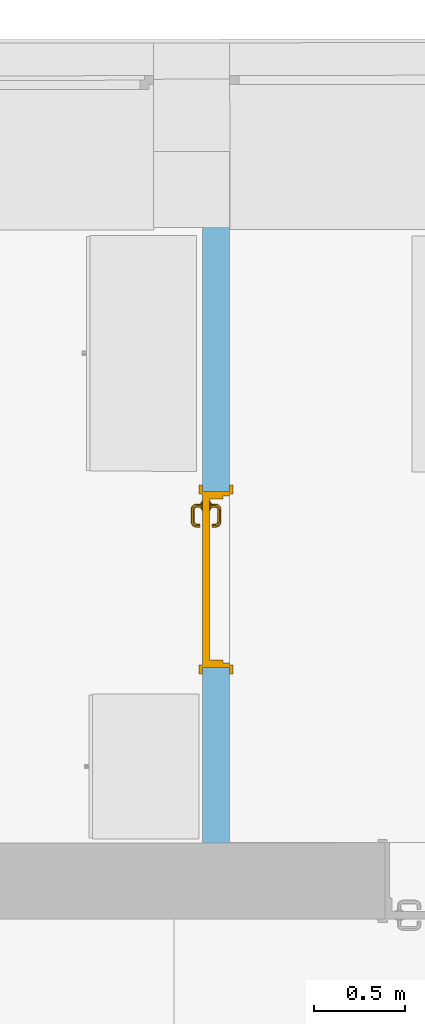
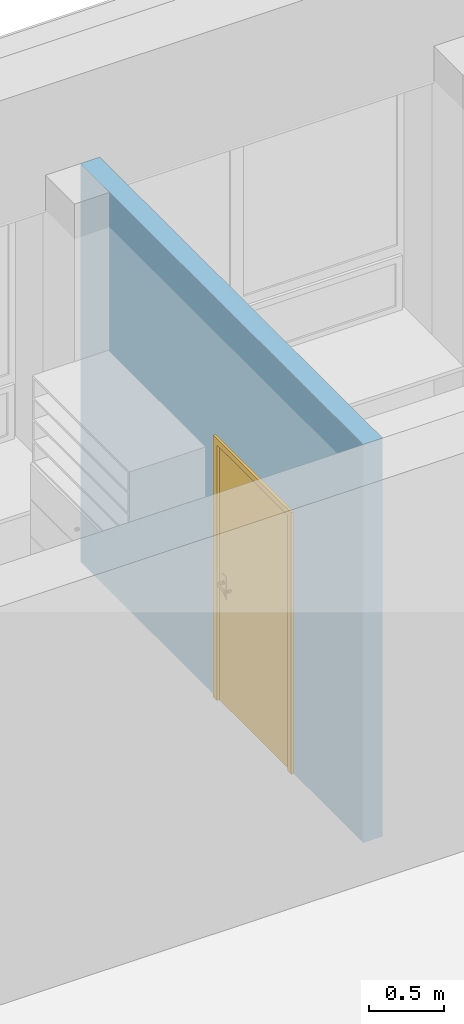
# One storey, part 52 of 194: 1 door, 1 opening, plus 1 element that does not belong to this part.
"""IFC2X3 building model written with IfcOpenShell, lengths in millimetres."""

from ifc_helpers import new_model, entity, si_unit, converted_unit, derived_unit, money_unit, direction, frame, origin_with_axes, origin_2d_with_axis, place, context, subcontext, project, spatial, polyline, rectangle, outline, extrude, open_shell, faceted_brep, surface_model, material, layer, layer_set, layer_usage, type_object, element, fill, save


model = new_model("IFC2X3")

# Units and contexts
model_context = context("Model", 3, precision=1e-05, world=origin_with_axes(), true_north=direction((0.0, 1.0)))
body_context = subcontext(model_context, "Body", "Model", "MODEL_VIEW")
ifc_project = project(units=[si_unit("LENGTHUNIT", "METRE", prefix="MILLI"), si_unit("AREAUNIT", "SQUARE_METRE"), si_unit("VOLUMEUNIT", "CUBIC_METRE"), converted_unit("PLANEANGLEUNIT", "DEGREE", entity("IfcPlaneAngleMeasure", 0.0174532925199), si_unit("PLANEANGLEUNIT", "RADIAN"), dimensions=[0, 0, 0, 0, 0, 0, 0]), si_unit("SOLIDANGLEUNIT", "STERADIAN"), money_unit("EUR"), converted_unit("TIMEUNIT", "Year", entity("IfcTimeMeasure", 31556926.0), si_unit("TIMEUNIT", "SECOND"), dimensions=[0, 0, 1, 0, 0, 0, 0]), si_unit("MASSUNIT", "GRAM", prefix="KILO"), si_unit("THERMODYNAMICTEMPERATUREUNIT", "DEGREE_CELSIUS"), si_unit("LUMINOUSINTENSITYUNIT", "LUMEN"), si_unit("ENERGYUNIT", "JOULE", prefix="MEGA"), derived_unit("THERMALCONDUCTANCEUNIT", [(si_unit("POWERUNIT", "WATT"), 1), (si_unit("LENGTHUNIT", "METRE"), -1), (si_unit("THERMODYNAMICTEMPERATUREUNIT", "KELVIN"), -1)]), derived_unit("SPECIFICHEATCAPACITYUNIT", [(si_unit("ENERGYUNIT", "JOULE"), 1), (si_unit("MASSUNIT", "GRAM", prefix="KILO"), -1), (si_unit("THERMODYNAMICTEMPERATUREUNIT", "KELVIN"), -1)]), derived_unit("MASSDENSITYUNIT", [(si_unit("MASSUNIT", "GRAM", prefix="KILO"), 1), (si_unit("VOLUMEUNIT", "CUBIC_METRE"), -1)])], contexts=[model_context])

# Site, building, storey
site_placement = place(None, origin_with_axes())
site = spatial("IfcSite", under=ifc_project, at=site_placement, Name="Site", CompositionType="ELEMENT")
building_placement = place(site_placement, origin_with_axes())
building = spatial("IfcBuilding", under=site, at=building_placement, Name="Building", CompositionType="ELEMENT")
storey_placement = place(building_placement, frame((0.0, 0.0, 3000.0), z_axis=(0.0, 0.0, 1.0), x_axis=(1.0, 0.0, 0.0)))
storey = spatial("IfcBuildingStorey", under=building, at=storey_placement, Name="2 KORRUS", CompositionType="ELEMENT", Elevation=3000.0)

# Wall, opening, door
ifc_material = material(Name="Kivi -Ol.Olev Konstruktsioon")
ifc_layer = layer(ifc_material, 150.0, ventilated="UNKNOWN")
ifc_layer_set = layer_set([ifc_layer], Name="ol.olev ss 150")
ifc_layer_usage = layer_usage(ifc_layer_set, "AXIS2", "POSITIVE", -150.0)
wall_type = type_object("IfcWallType", Name="SW - 022", PredefinedType="NOTDEFINED")
wall_placement = place(storey_placement, frame((19154.3400935, 47291.0925092, 0.0), z_axis=(0.0, 0.0, 1.0), x_axis=(-1.46190796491e-05, -0.999999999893, 0.0)))
wall = element("IfcWallStandardCase", 1, at=wall_placement, inside=storey, type_object=wall_type, material=ifc_layer_usage, Name="ol.olev ss 150", context=body_context, shape_type="SweptSolid", body=[
    extrude(outline(polyline([(430.243447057, -150.0), (4210.24037945, -150.0), (4210.11859324, -1.13686837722e-10), (430.000563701, 0.0), (430.243447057, -150.0)])), origin_with_axes(), (0.0, 0.0, 1.0), 3250.0),
])
opening_placement = place(wall_placement, frame((2758.37133384, -1.13686837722e-10, 0.0), z_axis=(0.0, 0.0, 1.0), x_axis=(1.0, 0.0, 0.0)))
opening = element("IfcOpeningElement", 2, at=opening_placement, cuts=wall, Name="Siseuks * Door 22", context=body_context, shape_type="SweptSolid", body=[
    extrude(rectangle(XDim=970.0, YDim=2100.0, at=origin_2d_with_axis()), frame((9.09494701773e-10, 150.0, 1050.0), z_axis=(0.0, 1.0, 0.0), x_axis=(1.0, 0.0, 0.0)), (0.0, 0.0, -1.0), 450.0),
    extrude(rectangle(XDim=1044.0, YDim=2137.0, at=origin_2d_with_axis()), frame((0.0, 0.0, 1068.5), z_axis=(0.0, 1.0, 0.0), x_axis=(1.0, 0.0, 0.0)), (0.0, 0.0, 1.0), 150.0),
    extrude(rectangle(XDim=1044.0, YDim=2137.0, at=origin_2d_with_axis()), frame((-9.09494701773e-10, -150.0, 1068.5), z_axis=(0.0, -1.0, 0.0), x_axis=(1.0, 0.0, 0.0)), (0.0, 0.0, 1.0), 150.0),
])
door_style = type_object("IfcDoorStyle", Name="SU-B206   970×2\xa0100", ConstructionType="NOTDEFINED", OperationType="SINGLE_SWING_LEFT", ParameterTakesPrecedence=False, Sizeable=False)
door_placement = place(opening_placement, frame((485.0, 2.27373675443e-10, 0.0), z_axis=(0.0, 0.0, 1.0), x_axis=(-1.0, 0.0, 0.0)))
door = element("IfcDoor", 3, at=door_placement, inside=storey, type_object=door_style, Name="Siseuks * Door 22", OverallHeight=2100.0, OverallWidth=970.0, context=body_context, shape_type="SurfaceModel", body=[
    faceted_brep([(969.999999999, 35.0000000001, 0.0), (969.999999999, 0.0, 0.0), (945.0, 0.0, 0.0), (944.999999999, 35.0, 0.0), (969.999999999, 35.0000000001, 2100.0), (969.999999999, 0.0, 2100.0), (945.0, 0.0, 2075.0), (944.999999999, 35.0, 2075.0)], [[[0, 1, 2, 3]], [[4, 5, 1, 0]], [[1, 5, 6, 2]], [[3, 2, 6, 7]], [[0, 3, 7, 4]], [[7, 6, 5, 4]]]),
    faceted_brep([(-9.09494701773e-10, 35.0000000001, 2100.0), (-9.09494701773e-10, 0.0, 2100.0), (24.9999999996, 1.13686837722e-10, 2075.0), (24.9999999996, 35.0000000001, 2075.0), (-9.09494701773e-10, 35.0000000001, 0.0), (-9.09494701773e-10, 0.0, 0.0), (24.9999999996, 1.13686837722e-10, 0.0), (24.9999999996, 35.0000000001, 0.0)], [[[0, 1, 2, 3]], [[4, 5, 1, 0]], [[1, 5, 6, 2]], [[3, 2, 6, 7]], [[0, 3, 7, 4]], [[7, 6, 5, 4]]]),
    faceted_brep([(944.999999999, 35.0, 2075.0), (945.0, 0.0, 2075.0), (24.9999999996, 1.13686837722e-10, 2075.0), (24.9999999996, 35.0000000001, 2075.0), (969.999999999, 35.0000000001, 2100.0), (969.999999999, 0.0, 2100.0), (-9.09494701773e-10, 0.0, 2100.0), (-9.09494701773e-10, 35.0000000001, 2100.0)], [[[0, 1, 2, 3]], [[4, 5, 1, 0]], [[1, 5, 6, 2]], [[3, 2, 6, 7]], [[0, 3, 7, 4]], [[7, 6, 5, 4]]]),
    faceted_brep([(1007.0, -19.0, 0.0), (956.999999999, -19.0, 0.0), (957.0, 1.13686837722e-10, 0.0), (1007.0, 0.0, 0.0), (1007.0, -19.0, 2137.0), (956.999999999, -19.0, 2087.0), (957.0, 1.13686837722e-10, 2087.0), (1007.0, 0.0, 2137.0)], [[[0, 1, 2, 3]], [[0, 4, 5, 1]], [[1, 5, 6, 2]], [[3, 2, 6, 7]], [[4, 0, 3, 7]], [[5, 4, 7, 6]]]),
    faceted_brep([(-37.0000000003, -19.0, 2137.0), (12.9999999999, -18.9999999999, 2087.0), (12.9999999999, 0.0, 2087.0), (-37.0000000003, 0.0, 2137.0), (-37.0000000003, -19.0, 0.0), (12.9999999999, -18.9999999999, 0.0), (12.9999999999, 0.0, 0.0), (-37.0000000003, 0.0, 0.0)], [[[0, 1, 2, 3]], [[0, 4, 5, 1]], [[1, 5, 6, 2]], [[3, 2, 6, 7]], [[4, 0, 3, 7]], [[5, 4, 7, 6]]]),
    faceted_brep([(1007.0, -19.0, 2137.0), (956.999999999, -19.0, 2087.0), (957.0, 1.13686837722e-10, 2087.0), (1007.0, 0.0, 2137.0), (-37.0000000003, -19.0, 2137.0), (12.9999999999, -18.9999999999, 2087.0), (12.9999999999, 0.0, 2087.0), (-37.0000000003, 0.0, 2137.0)], [[[0, 1, 2, 3]], [[0, 4, 5, 1]], [[1, 5, 6, 2]], [[3, 2, 6, 7]], [[4, 0, 3, 7]], [[5, 4, 7, 6]]]),
    faceted_brep([(1007.0, 169.0, 0.0), (1007.0, 150.0, 0.0), (957.0, 150.0, 0.0), (957.0, 169.0, 0.0), (1007.0, 169.0, 2137.0), (1007.0, 150.0, 2137.0), (957.0, 150.0, 2087.0), (957.0, 169.0, 2087.0)], [[[0, 1, 2, 3]], [[4, 5, 1, 0]], [[1, 5, 6, 2]], [[3, 2, 6, 7]], [[0, 3, 7, 4]], [[7, 6, 5, 4]]]),
    faceted_brep([(-37.0000000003, 169.0, 2137.0), (-37.0000000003, 150.0, 2137.0), (12.9999999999, 150.0, 2087.0), (12.9999999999, 169.0, 2087.0), (-37.0000000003, 169.0, 0.0), (-37.0000000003, 150.0, 0.0), (12.9999999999, 150.0, 0.0), (12.9999999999, 169.0, 0.0)], [[[0, 1, 2, 3]], [[4, 5, 1, 0]], [[1, 5, 6, 2]], [[3, 2, 6, 7]], [[0, 3, 7, 4]], [[7, 6, 5, 4]]]),
    faceted_brep([(1007.0, 169.0, 2137.0), (1007.0, 150.0, 2137.0), (957.0, 150.0, 2087.0), (957.0, 169.0, 2087.0), (-37.0000000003, 169.0, 2137.0), (-37.0000000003, 150.0, 2137.0), (12.9999999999, 150.0, 2087.0), (12.9999999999, 169.0, 2087.0)], [[[0, 1, 2, 3]], [[4, 5, 1, 0]], [[1, 5, 6, 2]], [[3, 2, 6, 7]], [[0, 3, 7, 4]], [[7, 6, 5, 4]]]),
    faceted_brep([(929.999999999, 110.0, 0.0), (930.0, 35.0, 0.0), (930.0, 35.0, 2060.0), (929.999999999, 110.0, 2060.0), (942.0, 110.0, 0.0), (942.0, 150.0, 0.0), (969.999999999, 150.0, 0.0), (969.999999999, 35.0000000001, 0.0), (969.999999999, 35.0000000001, 2060.0), (942.0, 110.0, 2060.0), (969.999999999, 150.0, 2060.0), (942.0, 150.0, 2060.0)], [[[0, 1, 2, 3]], [[4, 5, 6, 7, 1, 0]], [[1, 7, 8, 2]], [[9, 3, 2, 8, 10, 11]], [[9, 4, 0, 3]], [[11, 5, 4, 9]], [[11, 10, 6, 5]], [[6, 10, 8, 7]]]),
    faceted_brep([(27.9999999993, 110.0, 2060.0), (27.9999999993, 150.0, 2060.0), (0.0, 150.0, 2060.0), (-9.09494701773e-10, 35.0000000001, 2060.0), (40.0, 35.0, 2060.0), (40.0, 110.0, 2060.0), (27.9999999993, 110.0, 0.0), (27.9999999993, 150.0, 0.0), (0.0, 150.0, 0.0), (-9.09494701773e-10, 35.0000000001, 0.0), (40.0, 35.0, 0.0), (40.0, 110.0, 0.0)], [[[0, 1, 2, 3, 4, 5]], [[0, 6, 7, 1]], [[7, 8, 2, 1]], [[2, 8, 9, 3]], [[3, 9, 10, 4]], [[5, 4, 10, 11]], [[5, 11, 6, 0]], [[6, 11, 10, 9, 8, 7]]]),
    faceted_brep([(942.0, 150.0, 2072.0), (27.9999999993, 150.0, 2072.0), (27.9999999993, 150.0, 2060.0), (0.0, 150.0, 2060.0), (0.0, 150.0, 2100.0), (969.999999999, 150.0, 2100.0), (969.999999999, 150.0, 2060.0), (942.0, 150.0, 2060.0), (942.0, 110.0, 2072.0), (27.9999999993, 110.0, 2072.0), (27.9999999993, 110.0, 2060.0), (40.0, 110.0, 2060.0), (40.0, 35.0, 2060.0), (-9.09494701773e-10, 35.0000000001, 2060.0), (-9.09494701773e-10, 35.0000000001, 2100.0), (969.999999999, 35.0000000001, 2100.0), (969.999999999, 35.0000000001, 2060.0), (942.0, 110.0, 2060.0), (930.0, 35.0, 2060.0), (929.999999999, 110.0, 2060.0)], [[[0, 1, 2, 3, 4, 5, 6, 7]], [[0, 8, 9, 1]], [[1, 9, 10, 2]], [[10, 11, 12, 13, 3, 2]], [[4, 3, 13, 14]], [[5, 4, 14, 15]], [[6, 5, 15, 16]], [[17, 7, 6, 16, 18, 19]], [[7, 17, 8, 0]], [[10, 9, 8, 17, 19, 11]], [[19, 18, 12, 11]], [[12, 18, 16, 15, 14, 13]]]),
    faceted_brep([(920.499999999, 110.0, 1060.0), (863.5, 110.0, 1060.0), (863.499999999, 107.0, 1060.0), (920.5, 107.0, 1060.0), (920.499999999, 110.0, 870.0), (863.5, 110.0, 870.0), (863.499999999, 107.0, 870.0), (920.5, 107.0, 870.0)], [[[0, 1, 2, 3]], [[0, 4, 5, 1]], [[1, 5, 6, 2]], [[3, 2, 6, 7]], [[4, 0, 3, 7]], [[5, 4, 7, 6]]]),
    surface_model("IfcShellBasedSurfaceModel", [(882.0, 97.0, 1000.0), (884.928932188, 97.0000000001, 992.928932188), (884.928932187, 77.6964393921, 992.928932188), (882.000000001, 77.9849140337, 1000.0), (892.0, 97.0000000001, 990.0), (892.0, 77.0000000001, 990.0), (883.816790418, 72.1053251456, 992.928932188), (881.057796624, 73.248137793, 1000.0), (884.928932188, 97.0000000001, 1007.07106781), (884.928932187, 77.6964393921, 1007.07106781), (899.071067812, 97.0, 992.928932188), (899.071067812, 76.3035606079, 992.928932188), (890.47759065, 69.3463313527, 990.0), (881.044179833, 67.9558201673, 992.928932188), (878.932537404, 70.0674625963, 1000.0), (883.816790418, 72.1053251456, 1007.07106781), (892.0, 97.0000000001, 1010.0), (892.0, 77.0000000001, 1010.0), (902.0, 97.0000000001, 1000.0), (901.999999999, 76.0150859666, 1000.0), (897.138390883, 66.58733756, 992.928932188), (886.142135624, 62.8578643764, 990.0), (876.894674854, 65.183209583, 992.928932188), (875.751862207, 67.9422033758, 1000.0), (881.044179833, 67.9558201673, 1007.07106781), (890.47759065, 69.3463313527, 1010.0), (899.071067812, 97.0, 1007.07106781), (899.071067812, 76.3035606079, 1007.07106781), (899.897384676, 65.4445249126, 1000.0), (891.240091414, 57.7599085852, 992.928932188), (879.653668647, 58.5224093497, 990.0), (871.303560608, 64.0710678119, 992.928932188), (871.015085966, 67.0, 1000.0), (876.894674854, 65.183209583, 1007.07106781), (886.142135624, 62.8578643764, 1010.0), (897.138390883, 66.58733756, 1007.07106781), (893.351733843, 55.6482661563, 1000.0), (882.41266244, 51.8616091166, 992.928932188), (872.0, 57.0, 990.0), (802.696439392, 64.0710678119, 992.928932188), (802.984914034, 67.0, 1000.0), (871.303560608, 64.0710678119, 1007.07106781), (879.653668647, 58.5224093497, 1010.0), (891.240091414, 57.7599085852, 1007.07106781), (883.555475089, 49.1026153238, 1000.0), (872.696439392, 49.9289321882, 992.928932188), (802.0, 57.0, 990.0), (797.105325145, 65.183209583, 992.928932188), (798.248137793, 67.9422033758, 1000.0), (802.696439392, 64.0710678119, 1007.07106781), (872.0, 57.0, 1010.0), (882.41266244, 51.8616091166, 1007.07106781), (872.984914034, 47.0, 1000.0), (801.303560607, 49.9289321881, 992.928932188), (794.346331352, 58.5224093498, 990.0), (792.955820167, 67.9558201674, 992.928932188), (795.067462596, 70.0674625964, 1000.0), (797.105325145, 65.183209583, 1007.07106781), (802.0, 57.0, 1010.0), (872.696439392, 49.9289321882, 1007.07106781), (801.015085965, 47.0000000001, 1000.0), (791.587337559, 51.8616091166, 992.928932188), (787.857864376, 62.8578643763, 990.0), (790.183209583, 72.1053251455, 992.928932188), (792.942203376, 73.248137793, 1000.0), (792.955820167, 67.9558201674, 1007.07106781), (794.346331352, 58.5224093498, 1010.0), (801.303560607, 49.9289321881, 1007.07106781), (790.444524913, 49.1026153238, 1000.0), (782.759908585, 57.7599085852, 992.928932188), (783.52240935, 69.3463313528, 990.0), (789.071067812, 77.6964393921, 992.928932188), (791.999999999, 77.9849140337, 1000.0), (790.183209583, 72.1053251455, 1007.07106781), (787.857864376, 62.8578643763, 1010.0), (791.587337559, 51.8616091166, 1007.07106781), (780.648266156, 55.6482661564, 1000.0), (776.861609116, 66.58733756, 992.928932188), (782.0, 77.0, 990.0), (789.071067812, 97.0000000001, 992.928932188), (791.999999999, 97.0000000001, 1000.0), (789.071067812, 77.6964393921, 1007.07106781), (783.52240935, 69.3463313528, 1010.0), (782.759908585, 57.7599085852, 1007.07106781), (774.102615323, 65.4445249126, 1000.0), (774.928932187, 76.303560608, 992.928932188), (782.000000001, 97.0000000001, 990.0), (774.928932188, 97.0000000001, 992.928932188), (772.0, 97.0000000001, 1000.0), (774.928932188, 97.0000000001, 1007.07106781), (782.000000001, 97.0000000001, 1010.0), (789.071067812, 97.0000000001, 1007.07106781), (782.0, 77.0, 1010.0), (776.861609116, 66.58733756, 1007.07106781), (772.0, 76.0150859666, 1000.0), (774.928932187, 76.303560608, 1007.07106781)], [open_shell([[[0, 1, 2, 3]], [[1, 4, 5, 2]], [[3, 2, 6, 7]], [[8, 0, 3, 9]], [[4, 10, 11, 5]], [[2, 5, 12, 6]], [[7, 6, 13, 14]], [[9, 3, 7, 15]], [[16, 8, 9, 17]], [[10, 18, 19, 11]], [[5, 11, 20, 12]], [[6, 12, 21, 13]], [[14, 13, 22, 23]], [[15, 7, 14, 24]], [[17, 9, 15, 25]], [[26, 16, 17, 27]], [[18, 26, 27, 19]], [[11, 19, 28, 20]], [[12, 20, 29, 21]], [[13, 21, 30, 22]], [[23, 22, 31, 32]], [[24, 14, 23, 33]], [[25, 15, 24, 34]], [[27, 17, 25, 35]], [[19, 27, 35, 28]], [[20, 28, 36, 29]], [[21, 29, 37, 30]], [[22, 30, 38, 31]], [[32, 31, 39, 40]], [[33, 23, 32, 41]], [[34, 24, 33, 42]], [[35, 25, 34, 43]], [[28, 35, 43, 36]], [[29, 36, 44, 37]], [[30, 37, 45, 38]], [[31, 38, 46, 39]], [[40, 39, 47, 48]], [[41, 32, 40, 49]], [[42, 33, 41, 50]], [[43, 34, 42, 51]], [[36, 43, 51, 44]], [[37, 44, 52, 45]], [[38, 45, 53, 46]], [[39, 46, 54, 47]], [[48, 47, 55, 56]], [[49, 40, 48, 57]], [[50, 41, 49, 58]], [[51, 42, 50, 59]], [[44, 51, 59, 52]], [[45, 52, 60, 53]], [[46, 53, 61, 54]], [[47, 54, 62, 55]], [[56, 55, 63, 64]], [[57, 48, 56, 65]], [[58, 49, 57, 66]], [[59, 50, 58, 67]], [[52, 59, 67, 60]], [[53, 60, 68, 61]], [[54, 61, 69, 62]], [[55, 62, 70, 63]], [[64, 63, 71, 72]], [[65, 56, 64, 73]], [[66, 57, 65, 74]], [[67, 58, 66, 75]], [[60, 67, 75, 68]], [[61, 68, 76, 69]], [[62, 69, 77, 70]], [[63, 70, 78, 71]], [[72, 71, 79, 80]], [[73, 64, 72, 81]], [[74, 65, 73, 82]], [[75, 66, 74, 83]], [[68, 75, 83, 76]], [[69, 76, 84, 77]], [[70, 77, 85, 78]], [[71, 78, 86, 79]], [[80, 79, 86, 87, 88, 89, 90, 91]], [[81, 72, 80, 91]], [[82, 73, 81, 92]], [[83, 74, 82, 93]], [[76, 83, 93, 84]], [[77, 84, 94, 85]], [[78, 85, 87, 86]], [[85, 94, 88, 87]], [[94, 95, 89, 88]], [[95, 92, 90, 89]], [[92, 81, 91, 90]], [[93, 82, 92, 95]], [[84, 93, 95, 94]]])]),
    faceted_brep([(881.607695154, 97.0000000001, 994.0), (880.0, 97.0000000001, 1000.0), (879.0, 107.0, 1000.0), (880.741669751, 107.0, 993.5), (886.0, 97.0000000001, 989.607695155), (892.0, 97.0000000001, 988.0), (898.0, 97.0000000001, 989.607695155), (902.392304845, 97.0000000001, 994.0), (904.0, 97.0000000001, 1000.0), (902.392304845, 97.0000000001, 1006.0), (898.0, 97.0000000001, 1010.39230485), (892.0, 97.0000000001, 1012.0), (886.0, 97.0000000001, 1010.39230485), (881.607695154, 97.0000000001, 1006.0), (880.741669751, 107.0, 1006.5), (885.499999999, 107.0, 1011.25833025), (892.000000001, 107.0, 1013.0), (898.499999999, 107.0, 1011.25833025), (903.25833025, 107.0, 1006.5), (905.0, 107.0, 1000.0), (903.25833025, 107.0, 993.5), (898.499999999, 107.0, 988.741669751), (892.000000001, 107.0, 987.0), (885.499999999, 107.0, 988.741669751)], [[[0, 1, 2, 3]], [[1, 0, 4, 5, 6, 7, 8, 9, 10, 11, 12, 13]], [[1, 13, 14, 2]], [[2, 14, 15, 16, 17, 18, 19, 20, 21, 22, 23, 3]], [[4, 0, 3, 23]], [[5, 4, 23, 22]], [[6, 5, 22, 21]], [[7, 6, 21, 20]], [[8, 7, 20, 19]], [[9, 8, 19, 18]], [[10, 9, 18, 17]], [[11, 10, 17, 16]], [[12, 11, 16, 15]], [[13, 12, 15, 14]]]),
    faceted_brep([(874.679491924, 103.0, 895.0), (872.0, 103.0, 905.0), (870.0, 107.0, 905.0), (872.947441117, 107.0, 894.0), (882.000000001, 103.0, 887.679491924), (892.0, 103.0, 885.0), (902.0, 103.0, 887.679491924), (909.320508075, 103.0, 895.0), (911.999999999, 103.0, 905.0), (909.320508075, 103.0, 915.0), (902.0, 103.0, 922.320508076), (892.0, 103.0, 925.0), (882.000000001, 103.0, 922.320508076), (874.679491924, 103.0, 915.0), (872.947441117, 107.0, 916.0), (880.999999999, 107.0, 924.052558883), (892.000000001, 107.0, 927.0), (902.999999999, 107.0, 924.052558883), (911.052558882, 107.0, 916.0), (914.0, 107.0, 905.0), (911.052558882, 107.0, 894.0), (902.999999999, 107.0, 885.947441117), (892.000000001, 107.0, 883.0), (880.999999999, 107.0, 885.947441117)], [[[0, 1, 2, 3]], [[1, 0, 4, 5, 6, 7, 8, 9, 10, 11, 12, 13]], [[1, 13, 14, 2]], [[2, 14, 15, 16, 17, 18, 19, 20, 21, 22, 23, 3]], [[4, 0, 3, 23]], [[5, 4, 23, 22]], [[6, 5, 22, 21]], [[7, 6, 21, 20]], [[8, 7, 20, 19]], [[9, 8, 19, 18]], [[10, 9, 18, 17]], [[11, 10, 17, 16]], [[12, 11, 16, 15]], [[13, 12, 15, 14]]]),
    faceted_brep([(887.050252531, 101.0, 909.050252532), (884.999999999, 101.0, 914.0), (884.0, 103.0, 914.0), (886.34314575, 103.0, 908.343145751), (892.0, 101.0, 907.0), (896.949747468, 101.0, 909.050252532), (899.0, 101.0, 914.0), (896.949747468, 101.0, 918.949747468), (892.0, 101.0, 921.0), (887.050252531, 101.0, 918.949747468), (886.34314575, 103.0, 919.656854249), (892.0, 103.0, 922.0), (897.656854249, 103.0, 919.656854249), (900.0, 103.0, 914.0), (897.656854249, 103.0, 908.343145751), (892.0, 103.0, 906.0)], [[[0, 1, 2, 3]], [[1, 0, 4, 5, 6, 7, 8, 9]], [[1, 9, 10, 2]], [[2, 10, 11, 12, 13, 14, 15, 3]], [[4, 0, 3, 15]], [[5, 4, 15, 14]], [[6, 5, 14, 13]], [[7, 6, 13, 12]], [[8, 7, 12, 11]], [[9, 8, 11, 10]]]),
    faceted_brep([(920.499999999, 150.0, 1060.0), (920.5, 153.0, 1060.0), (863.499999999, 153.0, 1060.0), (863.5, 150.0, 1060.0), (920.499999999, 150.0, 870.0), (920.5, 153.0, 870.0), (863.499999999, 153.0, 870.0), (863.5, 150.0, 870.0)], [[[0, 1, 2, 3]], [[4, 5, 1, 0]], [[1, 5, 6, 2]], [[3, 2, 6, 7]], [[0, 3, 7, 4]], [[7, 6, 5, 4]]]),
    surface_model("IfcShellBasedSurfaceModel", [(882.0, 163.0, 1000.0), (882.0, 182.015085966, 1000.0), (884.928932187, 182.303560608, 992.928932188), (884.928932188, 163.0, 992.928932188), (884.928932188, 163.0, 1007.07106781), (884.928932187, 182.303560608, 1007.07106781), (881.057796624, 186.751862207, 1000.0), (883.816790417, 187.894674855, 992.928932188), (892.0, 183.0, 990.0), (892.0, 163.0, 990.0), (892.0, 163.0, 1010.0), (892.0, 183.0, 1010.0), (883.816790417, 187.894674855, 1007.07106781), (878.932537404, 189.932537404, 1000.0), (881.044179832, 192.044179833, 992.928932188), (890.47759065, 190.653668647, 990.0), (899.071067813, 183.696439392, 992.928932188), (899.071067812, 163.0, 992.928932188), (899.071067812, 163.0, 1007.07106781), (899.071067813, 183.696439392, 1007.07106781), (890.47759065, 190.653668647, 1010.0), (881.044179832, 192.044179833, 1007.07106781), (875.751862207, 192.057796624, 1000.0), (876.894674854, 194.816790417, 992.928932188), (886.142135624, 197.142135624, 990.0), (897.138390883, 193.41266244, 992.928932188), (901.999999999, 183.984914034, 1000.0), (902.0, 163.0, 1000.0), (897.138390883, 193.41266244, 1007.07106781), (886.142135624, 197.142135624, 1010.0), (876.894674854, 194.816790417, 1007.07106781), (871.015085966, 193.0, 1000.0), (871.303560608, 195.928932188, 992.928932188), (879.653668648, 201.47759065, 990.0), (891.240091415, 202.240091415, 992.928932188), (899.897384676, 194.555475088, 1000.0), (891.240091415, 202.240091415, 1007.07106781), (879.653668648, 201.47759065, 1010.0), (871.303560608, 195.928932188, 1007.07106781), (802.984914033, 193.0, 1000.0), (802.696439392, 195.928932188, 992.928932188), (872.0, 203.0, 990.0), (882.41266244, 208.138390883, 992.928932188), (893.351733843, 204.351733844, 1000.0), (882.41266244, 208.138390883, 1007.07106781), (872.0, 203.0, 1010.0), (802.696439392, 195.928932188, 1007.07106781), (798.248137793, 192.057796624, 1000.0), (797.105325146, 194.816790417, 992.928932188), (802.0, 203.0, 990.0), (872.696439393, 210.071067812, 992.928932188), (883.555475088, 210.897384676, 1000.0), (872.696439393, 210.071067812, 1007.07106781), (802.0, 203.0, 1010.0), (797.105325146, 194.816790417, 1007.07106781), (795.067462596, 189.932537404, 1000.0), (792.955820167, 192.044179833, 992.928932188), (794.346331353, 201.47759065, 990.0), (801.303560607, 210.071067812, 992.928932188), (872.984914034, 213.0, 1000.0), (801.303560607, 210.071067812, 1007.07106781), (794.346331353, 201.47759065, 1010.0), (792.955820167, 192.044179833, 1007.07106781), (792.942203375, 186.751862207, 1000.0), (790.183209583, 187.894674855, 992.928932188), (787.857864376, 197.142135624, 990.0), (791.58733756, 208.138390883, 992.928932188), (801.015085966, 213.0, 1000.0), (791.58733756, 208.138390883, 1007.07106781), (787.857864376, 197.142135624, 1010.0), (790.183209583, 187.894674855, 1007.07106781), (791.999999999, 182.015085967, 1000.0), (789.071067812, 182.303560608, 992.928932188), (783.52240935, 190.653668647, 990.0), (782.759908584, 202.240091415, 992.928932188), (790.444524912, 210.897384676, 1000.0), (782.759908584, 202.240091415, 1007.07106781), (783.52240935, 190.653668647, 1010.0), (789.071067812, 182.303560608, 1007.07106781), (791.999999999, 163.0, 1000.0), (789.071067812, 163.0, 992.928932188), (782.000000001, 183.0, 990.0), (776.861609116, 193.41266244, 992.928932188), (780.648266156, 204.351733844, 1000.0), (776.861609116, 193.41266244, 1007.07106781), (782.000000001, 183.0, 1010.0), (789.071067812, 163.0, 1007.07106781), (782.000000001, 163.0, 1010.0), (774.928932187, 163.0, 1007.07106781), (772.0, 163.0, 1000.0), (774.928932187, 163.0, 992.928932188), (782.000000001, 163.0, 990.0), (774.928932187, 183.696439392, 992.928932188), (774.102615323, 194.555475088, 1000.0), (774.928932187, 183.696439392, 1007.07106781), (772.0, 183.984914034, 1000.0)], [open_shell([[[0, 1, 2, 3]], [[4, 5, 1, 0]], [[1, 6, 7, 2]], [[3, 2, 8, 9]], [[10, 11, 5, 4]], [[5, 12, 6, 1]], [[6, 13, 14, 7]], [[2, 7, 15, 8]], [[9, 8, 16, 17]], [[18, 19, 11, 10]], [[11, 20, 12, 5]], [[12, 21, 13, 6]], [[13, 22, 23, 14]], [[7, 14, 24, 15]], [[8, 15, 25, 16]], [[17, 16, 26, 27]], [[27, 26, 19, 18]], [[19, 28, 20, 11]], [[20, 29, 21, 12]], [[21, 30, 22, 13]], [[22, 31, 32, 23]], [[14, 23, 33, 24]], [[15, 24, 34, 25]], [[16, 25, 35, 26]], [[26, 35, 28, 19]], [[28, 36, 29, 20]], [[29, 37, 30, 21]], [[30, 38, 31, 22]], [[31, 39, 40, 32]], [[23, 32, 41, 33]], [[24, 33, 42, 34]], [[25, 34, 43, 35]], [[35, 43, 36, 28]], [[36, 44, 37, 29]], [[37, 45, 38, 30]], [[38, 46, 39, 31]], [[39, 47, 48, 40]], [[32, 40, 49, 41]], [[33, 41, 50, 42]], [[34, 42, 51, 43]], [[43, 51, 44, 36]], [[44, 52, 45, 37]], [[45, 53, 46, 38]], [[46, 54, 47, 39]], [[47, 55, 56, 48]], [[40, 48, 57, 49]], [[41, 49, 58, 50]], [[42, 50, 59, 51]], [[51, 59, 52, 44]], [[52, 60, 53, 45]], [[53, 61, 54, 46]], [[54, 62, 55, 47]], [[55, 63, 64, 56]], [[48, 56, 65, 57]], [[49, 57, 66, 58]], [[50, 58, 67, 59]], [[59, 67, 60, 52]], [[60, 68, 61, 53]], [[61, 69, 62, 54]], [[62, 70, 63, 55]], [[63, 71, 72, 64]], [[56, 64, 73, 65]], [[57, 65, 74, 66]], [[58, 66, 75, 67]], [[67, 75, 68, 60]], [[68, 76, 69, 61]], [[69, 77, 70, 62]], [[70, 78, 71, 63]], [[71, 79, 80, 72]], [[64, 72, 81, 73]], [[65, 73, 82, 74]], [[66, 74, 83, 75]], [[75, 83, 76, 68]], [[76, 84, 77, 69]], [[77, 85, 78, 70]], [[78, 86, 79, 71]], [[79, 86, 87, 88, 89, 90, 91, 80]], [[72, 80, 91, 81]], [[73, 81, 92, 82]], [[74, 82, 93, 83]], [[83, 93, 84, 76]], [[84, 94, 85, 77]], [[85, 87, 86, 78]], [[94, 88, 87, 85]], [[95, 89, 88, 94]], [[92, 90, 89, 95]], [[81, 91, 90, 92]], [[82, 92, 95, 93]], [[93, 95, 94, 84]]])]),
    faceted_brep([(881.607695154, 163.0, 994.0), (880.741669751, 153.0, 993.5), (879.0, 153.0, 1000.0), (880.0, 163.0, 1000.0), (886.0, 163.0, 989.607695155), (885.499999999, 153.0, 988.741669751), (892.000000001, 153.0, 987.0), (898.499999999, 153.0, 988.741669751), (903.25833025, 153.0, 993.5), (905.0, 153.0, 1000.0), (903.25833025, 153.0, 1006.5), (898.499999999, 153.0, 1011.25833025), (892.000000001, 153.0, 1013.0), (885.499999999, 153.0, 1011.25833025), (880.741669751, 153.0, 1006.5), (881.607695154, 163.0, 1006.0), (886.0, 163.0, 1010.39230485), (892.0, 163.0, 1012.0), (898.0, 163.0, 1010.39230485), (902.392304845, 163.0, 1006.0), (904.0, 163.0, 1000.0), (902.392304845, 163.0, 994.0), (898.0, 163.0, 989.607695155), (892.0, 163.0, 988.0)], [[[0, 1, 2, 3]], [[4, 5, 1, 0]], [[2, 1, 5, 6, 7, 8, 9, 10, 11, 12, 13, 14]], [[3, 2, 14, 15]], [[3, 15, 16, 17, 18, 19, 20, 21, 22, 23, 4, 0]], [[23, 6, 5, 4]], [[22, 7, 6, 23]], [[21, 8, 7, 22]], [[20, 9, 8, 21]], [[19, 10, 9, 20]], [[18, 11, 10, 19]], [[17, 12, 11, 18]], [[16, 13, 12, 17]], [[15, 14, 13, 16]]]),
    faceted_brep([(874.679491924, 157.0, 895.0), (872.947441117, 153.0, 894.0), (870.0, 153.0, 905.0), (872.0, 157.0, 905.0), (882.0, 157.0, 887.679491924), (880.999999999, 153.0, 885.947441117), (892.000000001, 153.0, 883.0), (902.999999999, 153.0, 885.947441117), (911.052558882, 153.0, 894.0), (914.0, 153.0, 905.0), (911.052558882, 153.0, 916.0), (902.999999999, 153.0, 924.052558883), (892.000000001, 153.0, 927.0), (880.999999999, 153.0, 924.052558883), (872.947441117, 153.0, 916.0), (874.679491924, 157.0, 915.0), (882.0, 157.0, 922.320508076), (892.0, 157.0, 925.0), (902.0, 157.0, 922.320508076), (909.320508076, 157.0, 915.0), (911.999999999, 157.0, 905.0), (909.320508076, 157.0, 895.0), (902.0, 157.0, 887.679491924), (892.0, 157.0, 885.0)], [[[0, 1, 2, 3]], [[4, 5, 1, 0]], [[2, 1, 5, 6, 7, 8, 9, 10, 11, 12, 13, 14]], [[3, 2, 14, 15]], [[3, 15, 16, 17, 18, 19, 20, 21, 22, 23, 4, 0]], [[23, 6, 5, 4]], [[22, 7, 6, 23]], [[21, 8, 7, 22]], [[20, 9, 8, 21]], [[19, 10, 9, 20]], [[18, 11, 10, 19]], [[17, 12, 11, 18]], [[16, 13, 12, 17]], [[15, 14, 13, 16]]]),
    faceted_brep([(887.050252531, 159.0, 909.050252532), (886.34314575, 157.0, 908.343145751), (884.000000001, 157.0, 914.0), (884.999999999, 159.0, 914.0), (892.000000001, 159.0, 907.0), (892.0, 157.0, 906.0), (897.656854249, 157.0, 908.343145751), (900.0, 157.0, 914.0), (897.656854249, 157.0, 919.656854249), (892.0, 157.0, 922.0), (886.34314575, 157.0, 919.656854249), (887.050252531, 159.0, 918.949747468), (892.000000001, 159.0, 921.0), (896.949747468, 159.0, 918.949747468), (898.999999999, 159.0, 914.0), (896.949747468, 159.0, 909.050252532)], [[[0, 1, 2, 3]], [[4, 5, 1, 0]], [[2, 1, 5, 6, 7, 8, 9, 10]], [[3, 2, 10, 11]], [[3, 11, 12, 13, 14, 15, 4, 0]], [[15, 6, 5, 4]], [[14, 7, 6, 15]], [[13, 8, 7, 14]], [[12, 9, 8, 13]], [[11, 10, 9, 12]]]),
    faceted_brep([(27.9999999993, 150.0, 0.0), (942.0, 150.0, 0.0), (942.0, 110.0, 0.0), (27.9999999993, 110.0, 0.0), (27.9999999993, 150.0, 2072.0), (942.0, 150.0, 2072.0), (942.0, 110.0, 2072.0), (27.9999999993, 110.0, 2072.0)], [[[0, 1, 2, 3]], [[0, 4, 5, 1]], [[1, 5, 6, 2]], [[3, 2, 6, 7]], [[4, 0, 3, 7]], [[5, 4, 7, 6]]]),
])
fill(opening, door)

save(model, "model.ifc")
